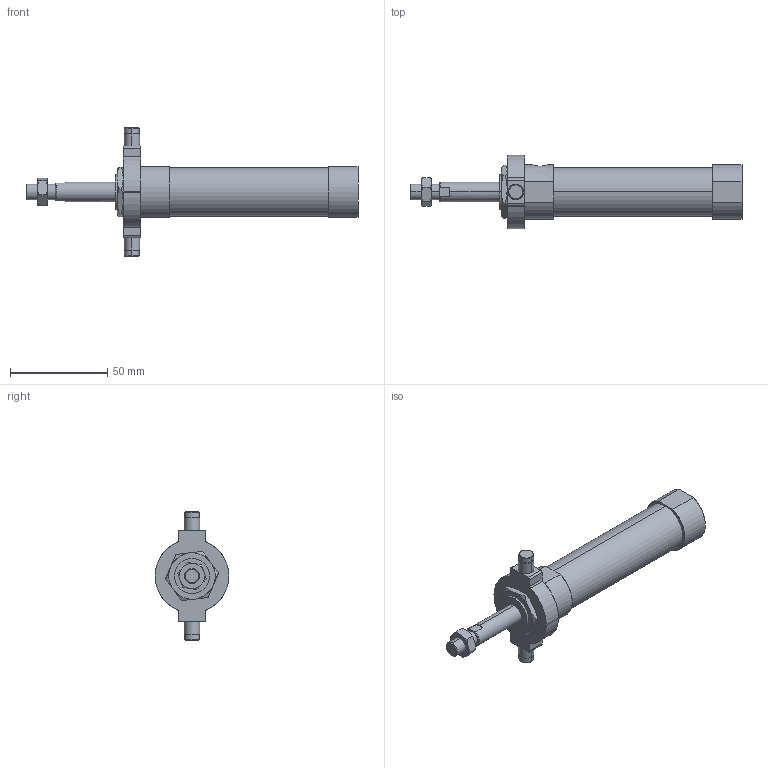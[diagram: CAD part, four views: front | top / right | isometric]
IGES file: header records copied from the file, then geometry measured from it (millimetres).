
Start section: SolidWorks IGES file using analytic representation for surfaces
Global section: file name: C:\Users\Toshiba\Desktop\JGND0-20-25-T.IGS; native system: SolidWorks 2014; preprocessor: SolidWorks 2014; author: Toshiba; date: 160804.100444; units: millimetre
Bounding box: 171 x 38 x 66 mm (x, y, z)
Surface area: 18626.6 mm2 (no closed solid volume)
Topology: 0 solids, 0 shells, 120 faces, 1866 edges, 1866 vertices
Faces by surface type: bspline 67, revolution 53
